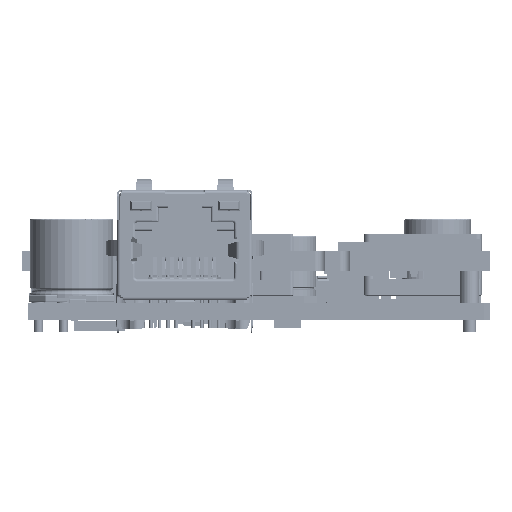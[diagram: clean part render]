
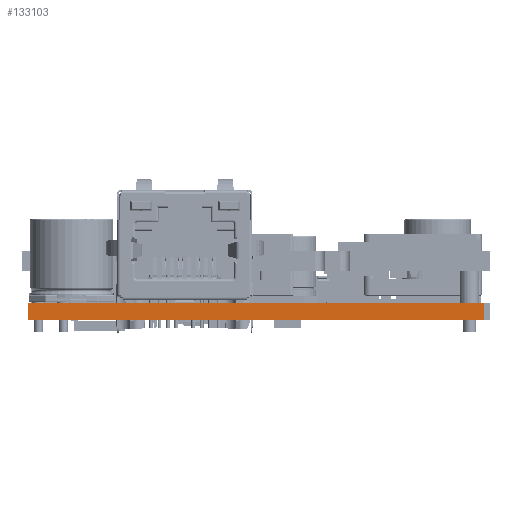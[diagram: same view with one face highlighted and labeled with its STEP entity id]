
A CAD part, left-side view. The second image highlights one B-rep face of the part: STEP entity #133103.
In plain terms, the highlighted planar face has unit normal (-1, 0, 0).
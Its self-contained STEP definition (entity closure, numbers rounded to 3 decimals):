
#12021=FACE_OUTER_BOUND('',#19649,.T.);
#19649=EDGE_LOOP('',(#89206,#89207,#89208,#89209));
#27743=LINE('',#193174,#42627);
#27769=LINE('',#193226,#42653);
#27771=LINE('',#193229,#42655);
#27772=LINE('',#193230,#42656);
#42627=VECTOR('',#154730,1.);
#42653=VECTOR('',#154772,1.);
#42655=VECTOR('',#154776,1.);
#42656=VECTOR('',#154777,1.);
#57511=VERTEX_POINT('',#193172);
#57512=VERTEX_POINT('',#193173);
#57529=VERTEX_POINT('',#193223);
#57530=VERTEX_POINT('',#193225);
#69885=EDGE_CURVE('',#57511,#57512,#27743,.T.);
#69911=EDGE_CURVE('',#57529,#57530,#27769,.T.);
#69913=EDGE_CURVE('',#57529,#57511,#27771,.T.);
#69914=EDGE_CURVE('',#57530,#57512,#27772,.T.);
#89206=ORIENTED_EDGE('',*,*,#69911,.F.);
#89207=ORIENTED_EDGE('',*,*,#69913,.T.);
#89208=ORIENTED_EDGE('',*,*,#69885,.T.);
#89209=ORIENTED_EDGE('',*,*,#69914,.F.);
#127746=PLANE('',#142953);
#133103=ADVANCED_FACE('',(#12021),#127746,.F.);
#142953=AXIS2_PLACEMENT_3D('',#193228,#154774,#154775);
#154730=DIRECTION('',(0.,0.,1.));
#154772=DIRECTION('',(0.,0.,1.));
#154774=DIRECTION('center_axis',(1.,0.,0.));
#154775=DIRECTION('ref_axis',(0.,-1.,0.));
#154776=DIRECTION('',(0.,-1.,0.));
#154777=DIRECTION('',(0.,-1.,0.));
#193172=CARTESIAN_POINT('',(0.,-27.5,0.));
#193173=CARTESIAN_POINT('',(0.,-27.5,1.99));
#193174=CARTESIAN_POINT('',(0.,-27.5,0.));
#193223=CARTESIAN_POINT('',(0.,27.5,0.));
#193225=CARTESIAN_POINT('',(0.,27.5,1.99));
#193226=CARTESIAN_POINT('',(0.,27.5,0.));
#193228=CARTESIAN_POINT('Origin',(0.,27.5,0.));
#193229=CARTESIAN_POINT('',(0.,27.5,0.));
#193230=CARTESIAN_POINT('',(0.,27.5,1.99));
